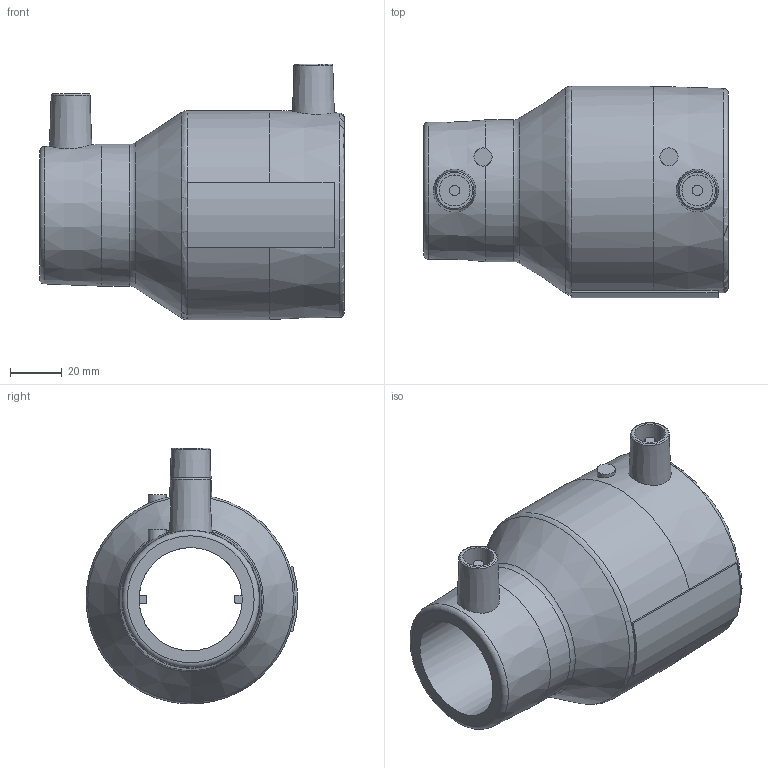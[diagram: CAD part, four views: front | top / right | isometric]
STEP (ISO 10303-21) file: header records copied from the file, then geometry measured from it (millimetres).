
FILE_DESCRIPTION(/* description */ ('Unknown'),/* implementation_level */ '2;1');
FILE_NAME(/* name */ 'REP063040C.P',/* time_stamp */ '2021-10-20T16:01:03+02:00',/* author */ ('Unknown'),/* organization */ ('Unknown'),/* preprocessor_version */ 'ST-DEVELOPER v16.7',/* originating_system */ 'Solid Edge',/* authorisation */ 'Unknown');
FILE_SCHEMA (('AUTOMOTIVE_DESIGN {1 0 10303 214 3 1 1}'));
Length unit declared in the file: millimetre
Products named in the file (1): REP063040C.P
Bounding box: 118 x 81.97 x 99 mm (x, y, z)
Volume: 210325.9 mm3; surface area: 54057 mm2
Topology: 1 solids, 1 shells, 52 faces, 122 edges, 78 vertices
Faces by surface type: plane 24, cylinder 16, cone 6, torus 6
Full cylindrical faces by diameter (mm): 4 x2, 7 x2, 12 x2, 40 x1, 55 x1, 63 x1
Entity records: 1339 total; most frequent: CARTESIAN_POINT 277, DIRECTION 228, ORIENTED_EDGE 170, AXIS2_PLACEMENT_3D 99, EDGE_CURVE 85, EDGE_LOOP 82, FACE_BOUND 82, VERTEX_POINT 63
